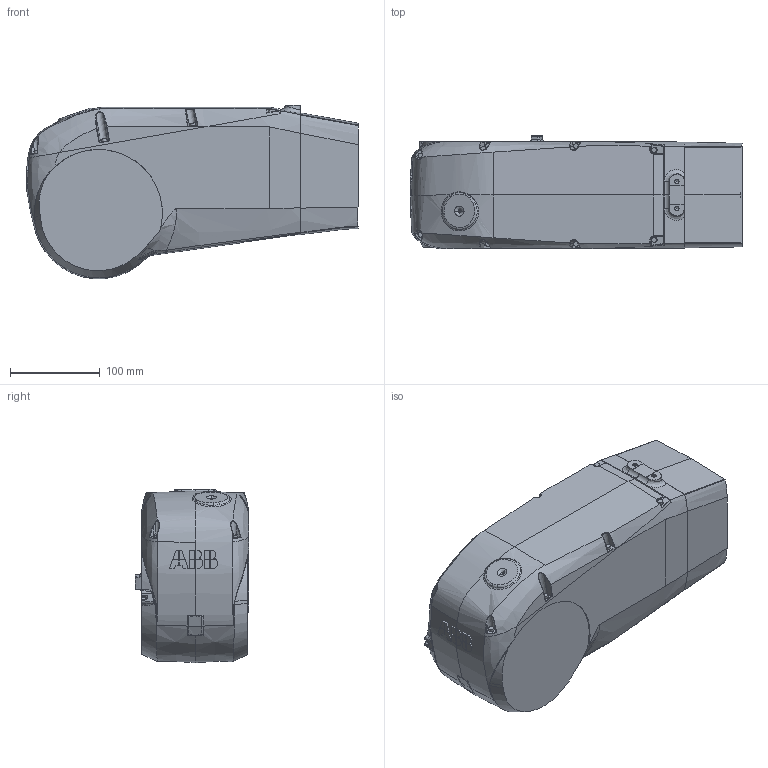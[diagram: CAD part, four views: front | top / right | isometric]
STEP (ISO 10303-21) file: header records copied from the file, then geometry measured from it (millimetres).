
FILE_DESCRIPTION (( 'STEP AP203' ), '1' );
FILE_NAME ('housing_900.STEP', '2014-05-15T08:50:20', ( 'ABB' ), ( 'ABB' ), 'SwSTEP 2.0', 'SolidWorks 2012', '' );
FILE_SCHEMA (( 'CONFIG_CONTROL_DESIGN' ));
Length unit declared in the file: millimetre
Products named in the file (1): housing_900
Bounding box: 369.21 x 126 x 192.81 mm (x, y, z)
Volume: 6429311.8 mm3; surface area: 266667.9 mm2
Topology: 18 solids, 25 shells, 540 faces, 1346 edges, 849 vertices
Faces by surface type: plane 196, bspline 195, cylinder 98, cone 28, torus 22, sphere 1
Entity records: 45370 total; most frequent: CARTESIAN_POINT 34452, ORIENTED_EDGE 2652, DIRECTION 1628, EDGE_CURVE 1326, VERTEX_POINT 849, AXIS2_PLACEMENT_3D 601, B_SPLINE_CURVE_WITH_KNOTS 589, EDGE_LOOP 553
